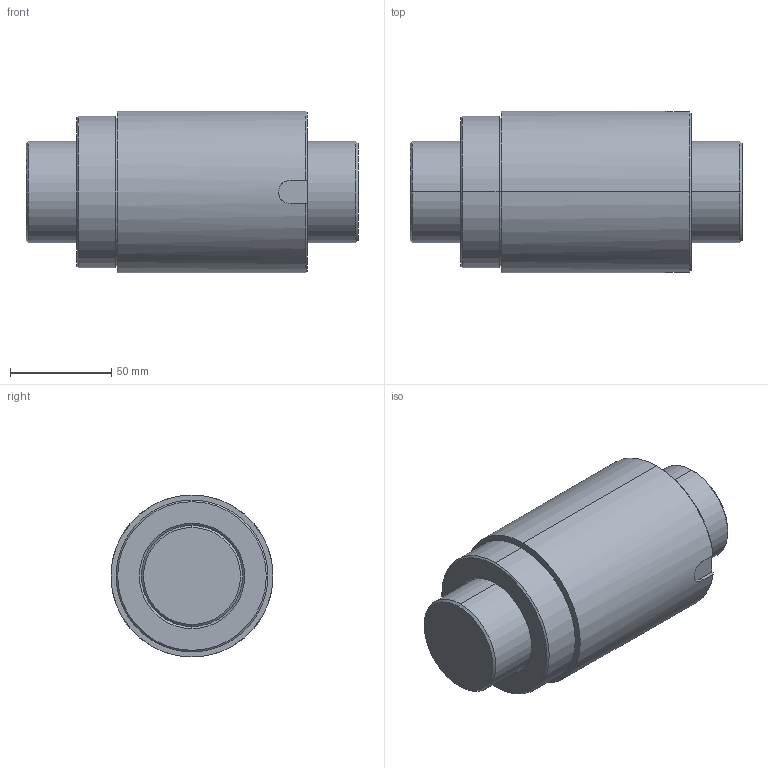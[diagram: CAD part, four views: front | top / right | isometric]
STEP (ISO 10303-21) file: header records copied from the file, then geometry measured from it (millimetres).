
FILE_DESCRIPTION(('no description'),'unknown implementation level');
FILE_NAME('R50_20T3_SE_164_164_0_023_12.stp',' ',('HIWIN GmbH'),('CADClick - KiM GmbH - www.kimweb.de'),'unknown preprocess','ACIS','unknown authorization');
FILE_SCHEMA(('automotive_design'));
Length unit declared in the file: millimetre
Products named in the file (2): R50-20T3-SE 164 164 0.023; R50-20T3-SE 164 164 0.023_1
Bounding box: 164 x 80 x 80 mm (x, y, z)
Volume: 657756.1 mm3; surface area: 81994.6 mm2
Topology: 2 solids, 2 shells, 40 faces, 90 edges, 56 vertices
Faces by surface type: cone 14, cylinder 14, plane 12
Entity records: 2275 total; most frequent: CARTESIAN_POINT 264, DIRECTION 206, STYLED_ITEM 188, PRESENTATION_STYLE_ASSIGNMENT 188, COLOUR_RGB 188, ORIENTED_EDGE 180, EDGE_CURVE 90, CURVE_STYLE 90
